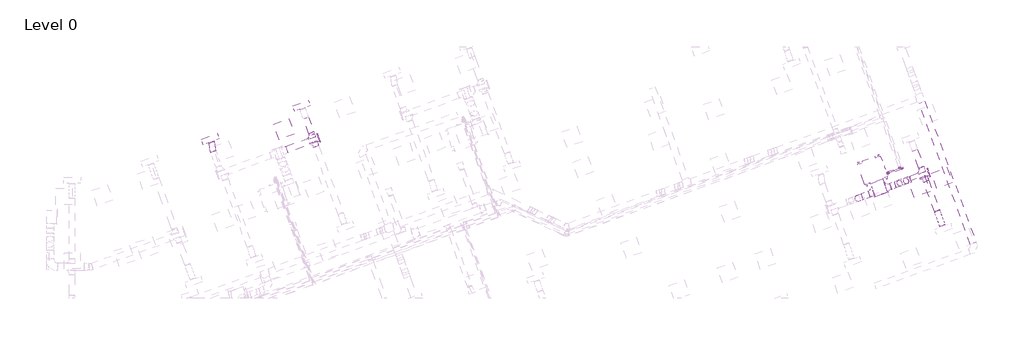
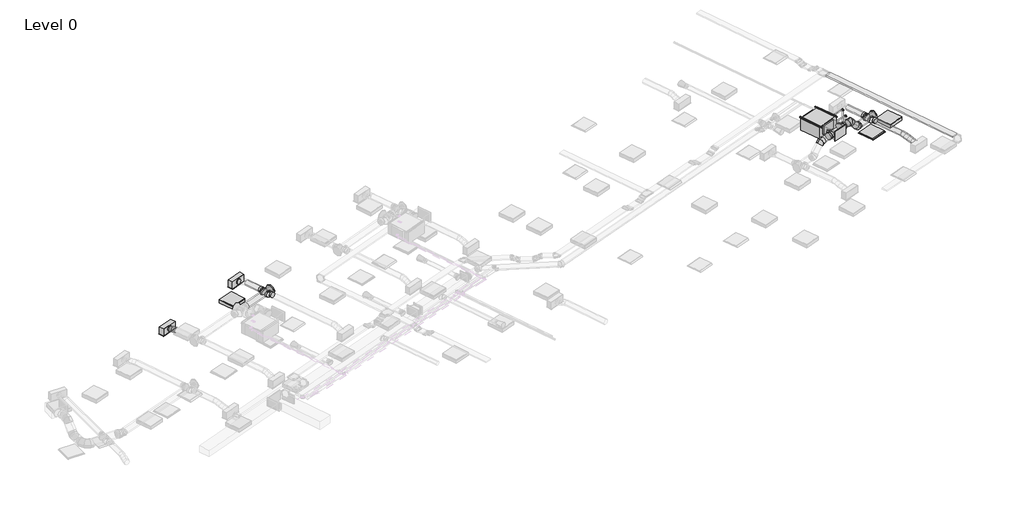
# One storey, part 29 of 34: 12 duct fittings, 11 duct segments, 6 pipe fittings, 4 pipe segments, 3 air terminals, 2 light fixtures, 1 cable carrier segment, 1 proxy.
"""IFC4 building model written with IfcOpenShell, lengths in millimetres."""

from ifc_helpers import new_model, si_unit, point, frame, frame_2d, origin, place, context, project, spatial, polyline, circle_curve, ellipse_curve, trimmed, segment, composite_curve, outline, extrude, transform, mapped, element, save
from ifc_brep_helpers import plane_surface, cylinder_surface, advanced_brep
from components import return_grille_rectangular_hosted_standard_7b12617c, supply_diffuser_with_plenum_linear_slot_hosted_2b730595, fan_coil_unit_ceiling_ducted_chw_376_lps_945e770d, dw144_rectangular_blank_end_standard_1669e3e3, dw144_round_blank_end_standard_e3d0b58b, dw144_round_segmented_bend_slip_joint_standard_636bd9c1, dw144_round_shoe_branch_slip_joint1_standard_2_15a2edd8, dw144_round_shoe_branch_slip_joint1_standard_2_4a92c8a1, dw144_round_shoe_branch_slip_joint1_standard_2_671412f0, troffer_light_2x2_parabolic_2_x2_2_lamp_120v_6a063ff3, elbow_threaded_gmi_standard_b4aa7741, socket_reducing_threaded_gmi_standard_0a4076b8

model = new_model("IFC4")

# Units and contexts
model_context = context("Model", 3, world=origin())
ifc_project = project(units=[si_unit("LENGTHUNIT", "METRE", prefix="MILLI")], contexts=[model_context])

# Site, building, storey
site = spatial("IfcSite", under=ifc_project)
building = spatial("IfcBuilding", under=site)
storey = spatial("IfcBuildingStorey", under=building, Name="Level 0", Elevation=0.0)

# Air terminals
placement = place(None, origin())
return_grille_rectangular_hosted_standard_shape = return_grille_rectangular_hosted_standard_7b12617c(model_context)
element("IfcAirTerminal", 1, ObjectType="Return Grille - Rectangular - Hosted : Standard", at=placement, inside=storey, context=model_context, shape_type="MappedRepresentation", body=[
    mapped(return_grille_rectangular_hosted_standard_shape, transform((62324.0047402, 14540.1267847, 2800.0), x_axis=(0.9396926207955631, 0.3420201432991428, 0.0), y_axis=(0.3420201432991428, -0.9396926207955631, 0.0), z_axis=(0.0, 0.0, -1.0))),
])
supply_diffuser_with_plenum_linear_slot_hosted_shape = supply_diffuser_with_plenum_linear_slot_hosted_2b730595(model_context)
element("IfcAirTerminal", 2, ObjectType="Supply Diffuser with Plenum - Linear Slot - Hosted : 24\" x 8\"-200 In Inlet  4-Slot", at=placement, inside=storey, context=model_context, shape_type="MappedRepresentation", body=[
    mapped(supply_diffuser_with_plenum_linear_slot_hosted_shape, transform((35911.9429146, 16306.0157494, 2800.0), x_axis=(-0.9396926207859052, -0.3420201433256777, 0.0), y_axis=(-0.3420201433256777, 0.9396926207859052, 0.0), z_axis=(0.0, 0.0, -1.0))),
])
element("IfcAirTerminal", 3, ObjectType="Supply Diffuser with Plenum - Linear Slot - Hosted : 24\" x 8\"-200 In Inlet  4-Slot", at=placement, inside=storey, context=model_context, shape_type="MappedRepresentation", body=[
    mapped(supply_diffuser_with_plenum_linear_slot_hosted_shape, transform((39305.8307526, 17541.2899009, 2800.0), x_axis=(-0.9396926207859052, -0.3420201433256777, 0.0), y_axis=(-0.3420201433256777, 0.9396926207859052, 0.0), z_axis=(0.0, 0.0, -1.0))),
])

# Proxy
fan_coil_unit_ceiling_ducted_chw_376_lps_shape = fan_coil_unit_ceiling_ducted_chw_376_lps_945e770d(model_context)
element("IfcBuildingElementProxy", 4, Name="Fan Coil Unit - Ceiling Ducted - CHW : 376 LPS", ObjectType="Fan Coil Unit - Ceiling Ducted - CHW : 376 LPS", at=placement, inside=storey, context=model_context, shape_type="MappedRepresentation", body=[
    mapped(fan_coil_unit_ceiling_ducted_chw_376_lps_shape, transform((60297.8420212, 14594.4554515, 3215.575), x_axis=(0.9396926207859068, 0.34202014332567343, 0.0), y_axis=(-0.34202014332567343, 0.9396926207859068, 0.0), z_axis=(0.0, 0.0, 1.0))),
])

# Cable carrier segment
element("IfcCableCarrierSegment", 5, ObjectType="Perforated Cable Tray", at=placement, inside=storey, context=model_context, shape_type="SweptSolid", body=[
    extrude(outline(polyline([(62316.5561069, 17642.8846749), (62527.9869466, 17719.8392071), (64443.8977173, 12455.9176269), (64232.4668776, 12378.9630947), (62316.5561069, 17642.8846749)])), frame((0.0, 0.0, 3223.9627355), z_axis=(0.0, 0.0, 1.0), x_axis=(1.0, 0.0, 0.0)), (0.0, 0.0, 1.0), 50.0),
])

# Duct fittings
dw144_rectangular_blank_end_standard_shape = dw144_rectangular_blank_end_standard_1669e3e3(model_context)
element("IfcDuctFitting", 6, ObjectType="DW144 Rectangular Blank End : Standard", at=placement, inside=storey, context=model_context, shape_type="MappedRepresentation", body=[
    mapped(dw144_rectangular_blank_end_standard_shape, transform((60913.8704656, 14238.6945827, 3469.575), x_axis=(0.34202014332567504, -0.9396926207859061, 0.0), y_axis=(0.9396926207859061, 0.34202014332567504, 0.0), z_axis=(0.0, 0.0, 1.0))),
])
dw144_round_blank_end_standard_shape = dw144_round_blank_end_standard_e3d0b58b(model_context)
element("IfcDuctFitting", 7, ObjectType="DW144 Round Blank End : Standard", at=placement, inside=storey, context=model_context, shape_type="MappedRepresentation", body=[
    mapped(dw144_round_blank_end_standard_shape, transform((39941.5121166, 16343.1470586, 3072.2088531), x_axis=(0.9396926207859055, 0.3420201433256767, 0.0), y_axis=(-0.3420201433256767, 0.9396926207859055, 0.0), z_axis=(0.0, 0.0, 1.0))),
])
element("IfcDuctFitting", 8, ObjectType="DW144 Round Blank End : Standard", at=placement, inside=storey, context=model_context, shape_type="MappedRepresentation", body=[
    mapped(dw144_round_blank_end_standard_shape, transform((62668.7217522, 15052.7517594, 3072.2088531), x_axis=(0.9396926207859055, 0.3420201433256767, 0.0), y_axis=(-0.3420201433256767, 0.9396926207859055, 0.0), z_axis=(0.0, 0.0, 1.0))),
])
dw144_round_segmented_bend_slip_joint_standard_shape = dw144_round_segmented_bend_slip_joint_standard_636bd9c1(model_context)
element("IfcDuctFitting", 9, ObjectType="DW144 Round Segmented Bend - Slip Joint : Standard", at=placement, inside=storey, context=model_context, shape_type="MappedRepresentation", body=[
    mapped(dw144_round_segmented_bend_slip_joint_standard_shape, transform((61898.7954922, 14772.5215182, 3072.2088531), x_axis=(0.6644630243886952, 0.24184476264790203, -0.7071067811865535), y_axis=(0.6644630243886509, 0.2418447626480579, 0.7071067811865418), z_axis=(0.3420201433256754, -0.939692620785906, 0.0))),
])
element("IfcDuctFitting", 10, ObjectType="DW144 Round Segmented Bend - Slip Joint : Standard", at=placement, inside=storey, context=model_context, shape_type="MappedRepresentation", body=[
    mapped(dw144_round_segmented_bend_slip_joint_standard_shape, transform((61525.3934562, 14636.6142917, 3469.575), x_axis=(0.9396926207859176, 0.3420201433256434, 0.0), y_axis=(0.0, 0.0, -1.0), z_axis=(-0.3420201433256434, 0.9396926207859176, 0.0))),
])
element("IfcDuctFitting", 11, ObjectType="DW144 Round Segmented Bend - Slip Joint : Standard", at=placement, inside=storey, context=model_context, shape_type="MappedRepresentation", body=[
    mapped(dw144_round_segmented_bend_slip_joint_standard_shape, transform((60097.0606726, 14116.7436739, 3469.575), x_axis=(-0.9396926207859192, -0.3420201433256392, 0.0), y_axis=(0.0, 0.0, -1.0000000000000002), z_axis=(0.3420201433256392, -0.9396926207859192, 0.0))),
])
dw144_round_shoe_branch_slip_joint1_standard_2_shape = dw144_round_shoe_branch_slip_joint1_standard_2_15a2edd8(model_context)
element("IfcDuctFitting", 12, ObjectType="DW144 Round Shoe Branch - Slip Joint1 : Standard 2", at=placement, inside=storey, context=model_context, shape_type="MappedRepresentation", body=[
    mapped(dw144_round_shoe_branch_slip_joint1_standard_2_shape, transform((39722.5145153, 16396.4606719, 3072.2088531), x_axis=(-0.3420201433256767, 0.9396926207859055, 0.0), y_axis=(0.9396926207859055, 0.3420201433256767, 0.0), z_axis=(0.0, 0.0, -1.0))),
])
element("IfcDuctFitting", 13, ObjectType="DW144 Round Shoe Branch - Slip Joint1 : Standard 2", at=placement, inside=storey, context=model_context, shape_type="MappedRepresentation", body=[
    mapped(dw144_round_shoe_branch_slip_joint1_standard_2_shape, transform((39808.0195511, 16161.5375167, 3072.2088531), x_axis=(0.3420201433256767, -0.9396926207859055, 0.0), y_axis=(0.9396926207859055, 0.3420201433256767, 0.0), z_axis=(0.0, 0.0, 1.0))),
])
element("IfcDuctFitting", 14, ObjectType="DW144 Round Shoe Branch - Slip Joint1 : Standard 2", at=placement, inside=storey, context=model_context, shape_type="MappedRepresentation", body=[
    mapped(dw144_round_shoe_branch_slip_joint1_standard_2_shape, transform((62449.7241509, 15106.0653727, 3072.2088531), x_axis=(-0.3420201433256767, 0.9396926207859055, 0.0), y_axis=(0.9396926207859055, 0.3420201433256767, 0.0), z_axis=(0.0, 0.0, -1.0))),
])
element("IfcDuctFitting", 15, ObjectType="DW144 Round Shoe Branch - Slip Joint1 : Standard 2", at=placement, inside=storey, context=model_context, shape_type="MappedRepresentation", body=[
    mapped(dw144_round_shoe_branch_slip_joint1_standard_2_shape, transform((62535.2291867, 14871.1422175, 3072.2088531), x_axis=(0.3420201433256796, -0.9396926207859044, 0.0), y_axis=(0.9396926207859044, 0.3420201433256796, 0.0), z_axis=(0.0, 0.0, 1.0))),
])
dw144_round_shoe_branch_slip_joint1_standard_2_2_shape = dw144_round_shoe_branch_slip_joint1_standard_2_4a92c8a1(model_context)
element("IfcDuctFitting", 16, ObjectType="DW144 Round Shoe Branch - Slip Joint1 : Standard 2", at=placement, inside=storey, context=model_context, shape_type="MappedRepresentation", body=[
    mapped(dw144_round_shoe_branch_slip_joint1_standard_2_2_shape, transform((61092.4392924, 14479.0318633, 3469.575), x_axis=(0.9396926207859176, 0.3420201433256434, 0.0), y_axis=(0.3420201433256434, -0.9396926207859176, 0.0), z_axis=(0.0, 0.0, -1.0))),
])
dw144_round_shoe_branch_slip_joint1_standard_2_3_shape = dw144_round_shoe_branch_slip_joint1_standard_2_671412f0(model_context)
element("IfcDuctFitting", 17, ObjectType="DW144 Round Shoe Branch - Slip Joint1 : Standard 2", at=placement, inside=storey, context=model_context, shape_type="MappedRepresentation", body=[
    mapped(dw144_round_shoe_branch_slip_joint1_standard_2_3_shape, transform((60622.592982, 14308.0217916, 3469.575), x_axis=(-0.9396926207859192, -0.3420201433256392, 0.0), y_axis=(-0.3420201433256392, 0.9396926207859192, 0.0), z_axis=(0.0, 0.0, -1.0))),
])

# Duct segments
element("IfcDuctSegment", 18, ObjectType="DW144 Flanged Med Radius Bend / Shoe Branch", at=placement, inside=storey, context=model_context, shape_type="SweptSolid", body=[
    extrude(outline(polyline([(60501.2336439, 14641.4538326), (60971.0799543, 14812.4639042), (61148.7936208, 14324.1996185), (60678.9473104, 14153.1895468), (60501.2336439, 14641.4538326)])), frame((0.0, 0.0, 3294.575), z_axis=(0.0, 0.0, 1.0), x_axis=(1.0, 0.0, 0.0)), (0.0, 0.0, 1.0), 350.0),
])
element("IfcDuctSegment", 19, ObjectType="DW144 Segmented Bend / Shoe Branch", at=placement, inside=storey, context=model_context, shape_type="SweptSolid", body=[
    extrude(outline(composite_curve([segment(trimmed(circle_curve(frame_2d((0.0, 125.0)), 125.0), [point((125.0, 125.0))], [point((0.0, 0.0))], False, "CARTESIAN"), True, "CONTINUOUS"), segment(trimmed(circle_curve(frame_2d((0.0, 125.0)), 125.0), [point((0.0, 0.0))], [point((-125.0, 125.0))], False, "CARTESIAN"), True, "CONTINUOUS"), segment(trimmed(circle_curve(frame_2d((0.0, 125.0)), 125.0), [point((-125.0, 125.0))], [point((0.0, 250.0))], False, "CARTESIAN"), True, "CONTINUOUS"), segment(trimmed(circle_curve(frame_2d((0.0, 125.0)), 125.0), [point((0.0, 250.0))], [point((125.0, 125.0))], False, "CARTESIAN"), True, "CONTINUOUS")], self_intersect=False)), frame((38766.9179686, 15915.6297514, 3197.2088531), z_axis=(0.9396926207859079, 0.3420201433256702, 0.0), x_axis=(0.3420201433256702, -0.9396926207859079, 0.0)), (0.0, 0.0, 1.0), 1249.976984),
])
element("IfcDuctSegment", 20, ObjectType="DW144 Segmented Bend / Shoe Branch", at=placement, inside=storey, context=model_context, shape_type="SweptSolid", body=[
    extrude(outline(composite_curve([segment(trimmed(circle_curve(frame_2d((0.0, 100.0)), 100.0), [point((100.0, 100.0))], [point((0.0, 0.0))], False, "CARTESIAN"), True, "CONTINUOUS"), segment(trimmed(circle_curve(frame_2d((0.0, 100.0)), 100.0), [point((0.0, 0.0))], [point((-100.0, 100.0))], False, "CARTESIAN"), True, "CONTINUOUS"), segment(trimmed(circle_curve(frame_2d((0.0, 100.0)), 100.0), [point((-100.0, 100.0))], [point((0.0, 200.0))], False, "CARTESIAN"), True, "CONTINUOUS"), segment(trimmed(circle_curve(frame_2d((0.0, 100.0)), 100.0), [point((0.0, 200.0))], [point((100.0, 100.0))], False, "CARTESIAN"), True, "CONTINUOUS")], self_intersect=False)), frame((39671.2114938, 16537.414565, 3172.2088531), z_axis=(-0.3420201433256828, 0.9396926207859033, 0.0), x_axis=(0.9396926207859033, 0.3420201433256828, 0.0)), (0.0, 0.0, 1.0), 590.0),
])
element("IfcDuctSegment", 21, ObjectType="DW144 Segmented Bend / Shoe Branch", at=placement, inside=storey, context=model_context, shape_type="SweptSolid", body=[
    extrude(outline(composite_curve([segment(trimmed(circle_curve(frame_2d((0.0, -125.0)), 125.0), [point((-125.0, -125.0))], [point((0.0, 0.0))], False, "CARTESIAN"), True, "CONTINUOUS"), segment(trimmed(circle_curve(frame_2d((0.0, -125.0)), 125.0), [point((0.0, 0.0))], [point((125.0, -125.0))], False, "CARTESIAN"), True, "CONTINUOUS"), segment(trimmed(circle_curve(frame_2d((0.0, -125.0)), 125.0), [point((125.0, -125.0))], [point((0.0, -250.0))], False, "CARTESIAN"), True, "CONTINUOUS"), segment(trimmed(circle_curve(frame_2d((0.0, -125.0)), 125.0), [point((0.0, -250.0))], [point((-125.0, -125.0))], False, "CARTESIAN"), True, "CONTINUOUS")], self_intersect=False)), frame((61996.1038492, 14807.9388637, 2947.2088531), z_axis=(0.9396926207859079, 0.3420201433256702, 0.0), x_axis=(0.3420201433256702, -0.9396926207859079, 0.0)), (0.0, 0.0, 1.0), 715.7850217),
])
element("IfcDuctSegment", 22, ObjectType="DW144 Segmented Bend / Shoe Branch", at=placement, inside=storey, context=model_context, shape_type="SweptSolid", body=[
    extrude(outline(composite_curve([segment(trimmed(circle_curve(frame_2d((0.0, 100.0)), 100.0), [point((99.9999999, 100.0))], [point((0.0, 0.0))], False, "CARTESIAN"), True, "CONTINUOUS"), segment(trimmed(circle_curve(frame_2d((0.0, 100.0)), 100.0), [point((0.0, 0.0))], [point((-100.0, 100.0))], False, "CARTESIAN"), True, "CONTINUOUS"), segment(trimmed(circle_curve(frame_2d((0.0, 100.0)), 100.0), [point((-100.0, 100.0))], [point((0.0, 200.0))], False, "CARTESIAN"), True, "CONTINUOUS"), segment(trimmed(circle_curve(frame_2d((0.0, 100.0)), 100.0), [point((0.0, 200.0))], [point((99.9999999, 100.0))], False, "CARTESIAN"), True, "CONTINUOUS")], self_intersect=False)), frame((62398.4211294, 15247.0192659, 3172.2088531), z_axis=(-0.3420201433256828, 0.9396926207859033, 0.0), x_axis=(0.9396926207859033, 0.3420201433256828, 0.0)), (0.0, 0.0, 1.0), 682.8884371),
])
element("IfcDuctSegment", 23, ObjectType="DW144 Segmented Bend / Shoe Branch", at=placement, inside=storey, context=model_context, shape_type="SweptSolid", body=[
    extrude(outline(composite_curve([segment(trimmed(circle_curve(frame_2d((0.0, -100.0)), 100.0), [point((-100.0, -100.0))], [point((0.0, 0.0))], False, "CARTESIAN"), True, "CONTINUOUS"), segment(trimmed(circle_curve(frame_2d((0.0, -100.0)), 100.0), [point((0.0, 0.0))], [point((100.0, -100.0))], False, "CARTESIAN"), True, "CONTINUOUS"), segment(trimmed(circle_curve(frame_2d((0.0, -100.0)), 100.0), [point((100.0, -100.0))], [point((0.0, -200.0))], False, "CARTESIAN"), True, "CONTINUOUS"), segment(trimmed(circle_curve(frame_2d((0.0, -100.0)), 100.0), [point((0.0, -200.0))], [point((-100.0, -100.0))], False, "CARTESIAN"), True, "CONTINUOUS")], self_intersect=False)), frame((62987.2757878, 13629.1543884, 2972.2088531), z_axis=(-0.34202014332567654, 0.9396926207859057, 0.0), x_axis=(0.9396926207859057, 0.34202014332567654, 0.0)), (0.0, 0.0, 1.0), 1171.6958415),
])
element("IfcDuctSegment", 24, ObjectType="DW144 Segmented Bend / Shoe Branch", at=placement, inside=storey, context=model_context, shape_type="SweptSolid", body=[
    extrude(outline(composite_curve([segment(trimmed(circle_curve(frame_2d((0.0, 125.0)), 125.0), [point((124.9999999, 125.0))], [point((0.0, 0.0))], False, "CARTESIAN"), True, "CONTINUOUS"), segment(trimmed(circle_curve(frame_2d((0.0, 125.0)), 125.0), [point((0.0, 0.0))], [point((-125.0, 125.0))], False, "CARTESIAN"), True, "CONTINUOUS"), segment(trimmed(circle_curve(frame_2d((0.0, 125.0)), 125.0), [point((-125.0, 125.0))], [point((0.0, 250.0))], False, "CARTESIAN"), True, "CONTINUOUS"), segment(trimmed(circle_curve(frame_2d((0.0, 125.0)), 125.0), [point((0.0, 250.0))], [point((124.9999999, 125.0))], False, "CARTESIAN"), True, "CONTINUOUS")], self_intersect=False)), frame((61256.885501, 14538.8853883, 3594.575), z_axis=(0.9396926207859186, 0.3420201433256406, 0.0), x_axis=(0.3420201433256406, -0.9396926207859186, 0.0)), (0.0, 0.0, 1.0), 182.1868071),
])
element("IfcDuctSegment", 25, ObjectType="DW144 Segmented Bend / Shoe Branch", at=placement, inside=storey, context=model_context, shape_type="SweptSolid", body=[
    extrude(outline(composite_curve([segment(trimmed(circle_curve(frame_2d((0.0, -125.0)), 125.0), [point((-125.0, -125.0))], [point((0.0, 0.0))], False, "CARTESIAN"), True, "CONTINUOUS"), segment(trimmed(circle_curve(frame_2d((0.0, -125.0)), 125.0), [point((0.0, 0.0))], [point((125.0, -125.0))], False, "CARTESIAN"), True, "CONTINUOUS"), segment(trimmed(circle_curve(frame_2d((0.0, -125.0)), 125.0), [point((125.0, -125.0))], [point((0.0, -250.0))], False, "CARTESIAN"), True, "CONTINUOUS"), segment(trimmed(circle_curve(frame_2d((0.0, -125.0)), 125.0), [point((0.0, -250.0))], [point((-125.0, -125.0))], False, "CARTESIAN"), True, "CONTINUOUS")], self_intersect=False)), frame((60194.3690296, 14152.1610194, 3344.575), z_axis=(0.9396926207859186, 0.3420201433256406, 0.0), x_axis=(0.3420201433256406, -0.9396926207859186, 0.0)), (0.0, 0.0, 1.0), 280.7064117),
])
element("IfcDuctSegment", 26, ObjectType="DW144 Segmented Bend / Shoe Branch", at=placement, inside=storey, context=model_context, shape_type="SweptSolid", body=[
    extrude(outline(composite_curve([segment(trimmed(circle_curve(frame_2d((0.0, -125.0)), 125.0), [point((57.2076922, -236.1408113))], [point((-111.1408114, -182.2076923))], False, "CARTESIAN"), True, "CONTINUOUS"), segment(trimmed(circle_curve(frame_2d((0.0, -125.0)), 125.0), [point((-111.1408114, -182.2076923))], [point((-57.2076923, -13.8591886))], False, "CARTESIAN"), True, "CONTINUOUS"), segment(trimmed(circle_curve(frame_2d((0.0, -125.0)), 125.0), [point((-57.2076923, -13.8591886))], [point((111.1408113, -67.7923077))], False, "CARTESIAN"), True, "CONTINUOUS"), segment(trimmed(circle_curve(frame_2d((0.0, -125.0)), 125.0), [point((111.1408113, -67.7923077))], [point((57.2076922, -236.1408113))], False, "CARTESIAN"), True, "CONTINUOUS")], self_intersect=False)), frame((61829.9880931, 14865.7512541, 3185.884105), z_axis=(-0.6644630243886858, -0.24184476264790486, 0.7071067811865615), x_axis=(0.7473211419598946, -0.2150305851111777, 0.6287073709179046)), (0.0, 0.0, 1.0), 354.8538129),
])
element("IfcDuctSegment", 27, ObjectType="Flex - Round", at=placement, inside=storey, context=model_context, shape_type="AdvancedBrep", body=[
    advanced_brep(
    [(35924.0047582, 15801.4077374, 3072.2088531), (36017.9740203, 15835.6097517, 2972.2088531), (36111.9432824, 15869.8117661, 3072.2088531), (36017.9740203, 15835.6097517, 3172.2088531), (35916.4172516, 15822.2542405, 3072.2088531), (36015.9886489, 15841.0645149, 2972.2088531), (36108.1884482, 15880.1280881, 3072.2088531), (36008.6170509, 15861.3178137, 3172.2088531), (35861.4102107, 16152.4727722, 2954.4), (35955.3794728, 16186.6747866, 3054.4), (36049.3487348, 16220.8768009, 2954.4), (35955.3794728, 16186.6747866, 2854.4), (35900.8957285, 15886.8504624, 3057.7687719), (36007.3423371, 15877.0480371, 2964.1649619), (36097.3705663, 15925.1490761, 3062.1446929), (35990.9239576, 15934.9515013, 3155.7485029), (35890.7383141, 15962.9659914, 3026.0560812), (35999.5221076, 15935.6496537, 2939.7492485), (36088.8121251, 15989.2825504, 3035.4241924), (35980.0283315, 16016.5988881, 3121.7310251), (35884.541368, 16033.0019879, 2991.1846607), (35993.3251615, 16005.6856502, 2904.877828), (36082.615179, 16059.3185469, 3000.5527719), (35973.8313854, 16086.6348846, 3086.8596046), (35875.9829268, 16097.1354622, 2964.4641602), (35982.4295354, 16087.333037, 2870.8603502), (36072.4577645, 16135.4340759, 2968.8400813), (35966.0111559, 16145.2365012, 3062.4438913), (35865.1650448, 16142.1564502, 2954.4), (35964.7364421, 16160.9667246, 2854.4), (36056.9362415, 16200.0302978, 2954.4), (35957.3648442, 16181.2200234, 3054.4)],
    [
        (0, 1, circle_curve(frame((36017.9740203, 15835.6097517, 3072.2088531), z_axis=(0.34202014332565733, -0.9396926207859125, 0.0), x_axis=(-0.9396926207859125, -0.34202014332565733, 0.0)), 100.0)),
        (1, 2, circle_curve(frame((36017.9740203, 15835.6097517, 3072.2088531), z_axis=(0.34202014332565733, -0.9396926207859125, 0.0), x_axis=(-0.9396926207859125, -0.34202014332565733, 0.0)), 100.0)),
        (2, 3, circle_curve(frame((36017.9740203, 15835.6097517, 3072.2088531), z_axis=(0.34202014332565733, -0.9396926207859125, 0.0), x_axis=(-0.9396926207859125, -0.34202014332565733, 0.0)), 100.0)),
        (3, 0, circle_curve(frame((36017.9740203, 15835.6097517, 3072.2088531), z_axis=(0.34202014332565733, -0.9396926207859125, 0.0), x_axis=(-0.9396926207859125, -0.34202014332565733, 0.0)), 100.0)),
        (0, 4),
        (4, 5, ellipse_curve(frame((36012.3028499, 15851.1911643, 3072.2088531), z_axis=(0.28725807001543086, -0.9518604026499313, 0.10697932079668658), x_axis=(0.47155649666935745, 0.04331948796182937, -0.8807711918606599)), 100.7349377, 100.0)),
        (5, 1),
        (5, 6, ellipse_curve(frame((36012.3028499, 15851.1911643, 3072.2088531), z_axis=(0.28725807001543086, -0.9518604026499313, 0.10697932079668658), x_axis=(0.47155649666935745, 0.04331948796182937, -0.8807711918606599)), 100.7349377, 100.0)),
        (6, 2),
        (6, 7, ellipse_curve(frame((36012.3028499, 15851.1911643, 3072.2088531), z_axis=(0.28725807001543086, -0.9518604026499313, 0.10697932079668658), x_axis=(0.47155649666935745, 0.04331948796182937, -0.8807711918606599)), 100.7349377, 100.0)),
        (7, 3),
        (7, 4, ellipse_curve(frame((36012.3028499, 15851.1911643, 3072.2088531), z_axis=(0.28725807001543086, -0.9518604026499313, 0.10697932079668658), x_axis=(0.47155649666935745, 0.04331948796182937, -0.8807711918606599)), 100.7349377, 100.0)),
        (8, 9, circle_curve(frame((35955.3794728, 16186.6747866, 2954.4), z_axis=(-0.3420201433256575, 0.9396926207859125, 0.0), x_axis=(-0.9396926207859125, -0.3420201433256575, 0.0)), 100.0)),
        (9, 10, circle_curve(frame((35955.3794728, 16186.6747866, 2954.4), z_axis=(-0.3420201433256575, 0.9396926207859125, 0.0), x_axis=(-0.9396926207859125, -0.3420201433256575, 0.0)), 100.0)),
        (10, 11, circle_curve(frame((35955.3794728, 16186.6747866, 2954.4), z_axis=(-0.3420201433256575, 0.9396926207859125, 0.0), x_axis=(-0.9396926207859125, -0.3420201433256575, 0.0)), 100.0)),
        (11, 8, circle_curve(frame((35955.3794728, 16186.6747866, 2954.4), z_axis=(-0.3420201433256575, 0.9396926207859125, 0.0), x_axis=(-0.9396926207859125, -0.3420201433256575, 0.0)), 100.0)),
        (4, 12),
        (12, 13, ellipse_curve(frame((35999.1331474, 15905.9997692, 3059.9567324), z_axis=(0.17618862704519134, -0.9379774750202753, 0.29858972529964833), x_axis=(0.5232975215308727, -0.16766949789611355, -0.8354918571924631)), 100.5173143, 100.0)),
        (13, 5),
        (13, 14, ellipse_curve(frame((35999.1331474, 15905.9997692, 3059.9567324), z_axis=(0.17618862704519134, -0.9379774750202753, 0.29858972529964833), x_axis=(0.5232975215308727, -0.16766949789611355, -0.8354918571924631)), 100.5173143, 100.0)),
        (14, 6),
        (14, 15, ellipse_curve(frame((35999.1331474, 15905.9997692, 3059.9567324), z_axis=(0.17618862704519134, -0.9379774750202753, 0.29858972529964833), x_axis=(0.5232975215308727, -0.16766949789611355, -0.8354918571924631)), 100.5173143, 100.0)),
        (15, 7),
        (15, 12, ellipse_curve(frame((35999.1331474, 15905.9997692, 3059.9567324), z_axis=(0.17618862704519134, -0.9379774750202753, 0.29858972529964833), x_axis=(0.5232975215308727, -0.16766949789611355, -0.8354918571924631)), 100.5173143, 100.0)),
        (12, 16),
        (16, 17, ellipse_curve(frame((35989.7752196, 15976.1242709, 3030.7401368), z_axis=(0.10068966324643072, -0.9049906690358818, 0.4133442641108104), x_axis=(0.5429036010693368, -0.2981722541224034, -0.7850789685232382)), 100.0796062, 100.0)),
        (17, 13),
        (17, 18, ellipse_curve(frame((35989.7752196, 15976.1242709, 3030.7401368), z_axis=(0.10068966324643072, -0.9049906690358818, 0.4133442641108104), x_axis=(0.5429036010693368, -0.2981722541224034, -0.7850789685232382)), 100.0796062, 100.0)),
        (18, 14),
        (18, 19, ellipse_curve(frame((35989.7752196, 15976.1242709, 3030.7401368), z_axis=(0.10068966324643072, -0.9049906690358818, 0.4133442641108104), x_axis=(0.5429036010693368, -0.2981722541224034, -0.7850789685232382)), 100.0796062, 100.0)),
        (19, 15),
        (19, 16, ellipse_curve(frame((35989.7752196, 15976.1242709, 3030.7401368), z_axis=(0.10068966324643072, -0.9049906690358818, 0.4133442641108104), x_axis=(0.5429036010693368, -0.2981722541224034, -0.7850789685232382)), 100.0796062, 100.0)),
        (16, 20),
        (20, 21, ellipse_curve(frame((35983.5782735, 16046.1602674, 2995.8687163), z_axis=(0.10068966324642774, -0.9049906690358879, 0.4133442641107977), x_axis=(-0.5429036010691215, 0.2981722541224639, 0.7850789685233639)), 100.0796062, 100.0)),
        (21, 17),
        (21, 22, ellipse_curve(frame((35983.5782735, 16046.1602674, 2995.8687163), z_axis=(0.10068966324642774, -0.9049906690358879, 0.4133442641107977), x_axis=(-0.5429036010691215, 0.2981722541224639, 0.7850789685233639)), 100.0796062, 100.0)),
        (22, 18),
        (22, 23, ellipse_curve(frame((35983.5782735, 16046.1602674, 2995.8687163), z_axis=(0.10068966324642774, -0.9049906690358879, 0.4133442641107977), x_axis=(-0.5429036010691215, 0.2981722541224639, 0.7850789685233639)), 100.0796062, 100.0)),
        (23, 19),
        (23, 20, ellipse_curve(frame((35983.5782735, 16046.1602674, 2995.8687163), z_axis=(0.10068966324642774, -0.9049906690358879, 0.4133442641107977), x_axis=(-0.5429036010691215, 0.2981722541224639, 0.7850789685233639)), 100.0796062, 100.0)),
        (20, 24),
        (24, 25, ellipse_curve(frame((35974.2203457, 16116.2847691, 2966.6521207), z_axis=(0.17618862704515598, -0.9379774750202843, 0.29858972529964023), x_axis=(-0.5232975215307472, 0.16766949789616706, 0.8354918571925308)), 100.5173143, 100.0)),
        (25, 21),
        (25, 26, ellipse_curve(frame((35974.2203457, 16116.2847691, 2966.6521207), z_axis=(0.17618862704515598, -0.9379774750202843, 0.29858972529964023), x_axis=(-0.5232975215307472, 0.16766949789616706, 0.8354918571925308)), 100.5173143, 100.0)),
        (26, 22),
        (26, 27, ellipse_curve(frame((35974.2203457, 16116.2847691, 2966.6521207), z_axis=(0.17618862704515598, -0.9379774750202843, 0.29858972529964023), x_axis=(-0.5232975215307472, 0.16766949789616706, 0.8354918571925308)), 100.5173143, 100.0)),
        (27, 23),
        (27, 24, ellipse_curve(frame((35974.2203457, 16116.2847691, 2966.6521207), z_axis=(0.17618862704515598, -0.9379774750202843, 0.29858972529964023), x_axis=(-0.5232975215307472, 0.16766949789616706, 0.8354918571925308)), 100.5173143, 100.0)),
        (24, 28),
        (28, 29, ellipse_curve(frame((35961.0506431, 16171.093374, 2954.4), z_axis=(0.28725807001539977, -0.95186040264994, 0.10697932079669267), x_axis=(-0.4715564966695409, -0.043319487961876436, 0.8807711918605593)), 100.7349377, 100.0)),
        (29, 25),
        (29, 30, ellipse_curve(frame((35961.0506431, 16171.093374, 2954.4), z_axis=(0.28725807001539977, -0.95186040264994, 0.10697932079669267), x_axis=(-0.4715564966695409, -0.043319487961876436, 0.8807711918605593)), 100.7349377, 100.0)),
        (30, 26),
        (30, 31, ellipse_curve(frame((35961.0506431, 16171.093374, 2954.4), z_axis=(0.28725807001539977, -0.95186040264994, 0.10697932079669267), x_axis=(-0.4715564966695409, -0.043319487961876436, 0.8807711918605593)), 100.7349377, 100.0)),
        (31, 27),
        (31, 28, ellipse_curve(frame((35961.0506431, 16171.093374, 2954.4), z_axis=(0.28725807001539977, -0.95186040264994, 0.10697932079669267), x_axis=(-0.4715564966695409, -0.043319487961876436, 0.8807711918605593)), 100.7349377, 100.0)),
        (28, 8),
        (11, 29),
        (10, 30),
        (9, 31),
    ],
    [
        plane_surface(frame((36017.9740203, 15835.6097517, 3172.2088531), z_axis=(0.3420201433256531, -0.9396926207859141, 0.0), x_axis=(0.9396926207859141, 0.3420201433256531, 0.0))),
        cylinder_surface(frame((36017.9740203, 15835.6097517, 3072.2088531), z_axis=(0.34202014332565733, -0.9396926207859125, 0.0), x_axis=(-0.9396926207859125, -0.34202014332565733, 0.0)), 100.0),
        plane_surface(frame((35955.3794728, 16186.6747866, 3054.4), z_axis=(-0.3420201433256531, 0.9396926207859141, 0.0), x_axis=(0.9396926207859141, 0.3420201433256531, 0.0))),
        cylinder_surface(frame((36012.3028499, 15851.1911643, 3072.2088531), z_axis=(0.22830446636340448, -0.9501390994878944, 0.21239765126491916), x_axis=(-0.9716478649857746, -0.2361330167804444, -0.011900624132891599)), 100.0),
        cylinder_surface(frame((35999.1331474, 15905.9997692, 3059.9567324), z_axis=(0.12225927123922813, -0.9161612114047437, 0.3817084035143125), x_axis=(-0.9881182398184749, -0.14844948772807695, -0.039813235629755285)), 100.0),
        cylinder_surface(frame((35989.7752196, 15976.1242709, 3030.7401368), z_axis=(0.07895987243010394, -0.8923804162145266, 0.44432255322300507), x_axis=(-0.9918227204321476, -0.11515391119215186, -0.05502061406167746)), 100.0),
        cylinder_surface(frame((35983.5782735, 16046.1602674, 2995.8687163), z_axis=(0.1222592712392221, -0.9161612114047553, 0.3817084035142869), x_axis=(-0.9881182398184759, -0.1484494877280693, -0.039813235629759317)), 100.0),
        cylinder_surface(frame((35974.2203457, 16116.2847691, 2966.6521207), z_axis=(0.22830446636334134, -0.9501390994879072, 0.21239765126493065), x_axis=(-0.9716478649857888, -0.23613301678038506, -0.011900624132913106)), 100.0),
        cylinder_surface(frame((35961.0506431, 16171.093374, 2954.4), z_axis=(0.3420201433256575, -0.9396926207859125, 0.0), x_axis=(-0.9396926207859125, -0.3420201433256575, 0.0)), 100.0),
    ],
    [
        (0, [[1, 2, 3, 4]]),
        (1, [[-1, 5, 6, 7]]),
        (1, [[-2, -7, 8, 9]]),
        (1, [[-3, -9, 10, 11]]),
        (1, [[-4, -11, 12, -5]]),
        (2, [[13, 14, 15, 16]]),
        (3, [[-6, 17, 18, 19]]),
        (3, [[-8, -19, 20, 21]]),
        (3, [[-10, -21, 22, 23]]),
        (3, [[-12, -23, 24, -17]]),
        (4, [[-18, 25, 26, 27]]),
        (4, [[-20, -27, 28, 29]]),
        (4, [[-22, -29, 30, 31]]),
        (4, [[-24, -31, 32, -25]]),
        (5, [[-26, 33, 34, 35]]),
        (5, [[-28, -35, 36, 37]]),
        (5, [[-30, -37, 38, 39]]),
        (5, [[-32, -39, 40, -33]]),
        (6, [[-34, 41, 42, 43]]),
        (6, [[-36, -43, 44, 45]]),
        (6, [[-38, -45, 46, 47]]),
        (6, [[-40, -47, 48, -41]]),
        (7, [[-42, 49, 50, 51]]),
        (7, [[-44, -51, 52, 53]]),
        (7, [[-46, -53, 54, 55]]),
        (7, [[-48, -55, 56, -49]]),
        (8, [[-50, 57, -16, 58]]),
        (8, [[-52, -58, -15, 59]]),
        (8, [[-54, -59, -14, 60]]),
        (8, [[-56, -60, -13, -57]]),
    ],
),
])
element("IfcDuctSegment", 28, ObjectType="Flex - Round", at=placement, inside=storey, context=model_context, shape_type="AdvancedBrep", body=[
    advanced_brep(
    [(63081.2450499, 13663.3564027, 3072.2088531), (62987.2757878, 13629.1543884, 2972.2088531), (62893.3065257, 13594.952374, 3072.2088531), (62987.2757878, 13629.1543884, 3172.2088531), (63085.4490823, 13651.8059187, 3072.2088531), (62989.1811997, 13623.9193121, 2972.2088531), (62897.5105581, 13583.4018901, 3072.2088531), (62993.7784406, 13611.2884967, 3172.2088531), (63283.0758915, 13108.830723, 2954.4), (63189.1066294, 13074.6287087, 3054.4), (63095.1373674, 13040.4266943, 2954.4), (63189.1066294, 13074.6287087, 2854.4), (63132.0761386, 13523.6991344, 3053.8012198), (63031.2288686, 13508.3942915, 2955.6090905), (62944.1376144, 13455.2951057, 3053.8012198), (63044.9848844, 13470.5999486, 3151.9933492), (63182.1604707, 13386.0935629, 3013.3044266), (63079.0748923, 13376.9384216, 2916.9221309), (62994.2219466, 13317.6895342, 3013.3044266), (63097.3075249, 13326.8446754, 3109.6867223), (63232.2448028, 13248.4879913, 2972.8076333), (63131.3975328, 13233.1831484, 2874.6155039), (63044.3062787, 13180.0839626, 2972.8076333), (63145.1535487, 13195.3888055, 3070.9997627), (63278.8718591, 13120.381207, 2954.4), (63182.6039766, 13092.4946004, 2854.4), (63090.933335, 13051.9771783, 2954.4), (63187.2012175, 13079.8637849, 3054.4)],
    [
        (0, 1, circle_curve(frame((62987.2757878, 13629.1543884, 3072.2088531), z_axis=(-0.3420201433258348, 0.939692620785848, 0.0), x_axis=(0.939692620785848, 0.3420201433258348, 0.0)), 100.0)),
        (1, 2, circle_curve(frame((62987.2757878, 13629.1543884, 3072.2088531), z_axis=(-0.3420201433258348, 0.939692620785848, 0.0), x_axis=(0.939692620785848, 0.3420201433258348, 0.0)), 100.0)),
        (2, 3, circle_curve(frame((62987.2757878, 13629.1543884, 3072.2088531), z_axis=(-0.3420201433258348, 0.939692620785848, 0.0), x_axis=(0.939692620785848, 0.3420201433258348, 0.0)), 100.0)),
        (3, 0, circle_curve(frame((62987.2757878, 13629.1543884, 3072.2088531), z_axis=(-0.3420201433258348, 0.939692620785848, 0.0), x_axis=(0.939692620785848, 0.3420201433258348, 0.0)), 100.0)),
        (0, 4),
        (4, 5, ellipse_curve(frame((62991.4798202, 13617.6039044, 3072.2088531), z_axis=(-0.34125033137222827, 0.9375775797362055, 0.06705589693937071), x_axis=(-0.022934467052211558, 0.06301193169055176, -0.9977492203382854)), 100.2255857, 100.0)),
        (5, 1),
        (5, 6, ellipse_curve(frame((62991.4798202, 13617.6039044, 3072.2088531), z_axis=(-0.34125033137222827, 0.9375775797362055, 0.06705589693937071), x_axis=(-0.022934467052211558, 0.06301193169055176, -0.9977492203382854)), 100.2255857, 100.0)),
        (6, 2),
        (6, 7, ellipse_curve(frame((62991.4798202, 13617.6039044, 3072.2088531), z_axis=(-0.34125033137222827, 0.9375775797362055, 0.06705589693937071), x_axis=(-0.022934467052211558, 0.06301193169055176, -0.9977492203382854)), 100.2255857, 100.0)),
        (7, 3),
        (7, 4, ellipse_curve(frame((62991.4798202, 13617.6039044, 3072.2088531), z_axis=(-0.34125033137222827, 0.9375775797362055, 0.06705589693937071), x_axis=(-0.022934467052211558, 0.06301193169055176, -0.9977492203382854)), 100.2255857, 100.0)),
        (8, 9, circle_curve(frame((63189.1066294, 13074.6287087, 2954.4), z_axis=(0.342020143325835, -0.939692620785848, 0.0), x_axis=(0.9396926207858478, 0.34202014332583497, 0.0)), 100.0)),
        (9, 10, circle_curve(frame((63189.1066294, 13074.6287087, 2954.4), z_axis=(0.342020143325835, -0.939692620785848, 0.0), x_axis=(0.9396926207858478, 0.34202014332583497, 0.0)), 100.0)),
        (10, 11, circle_curve(frame((63189.1066294, 13074.6287087, 2954.4), z_axis=(0.342020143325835, -0.939692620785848, 0.0), x_axis=(0.9396926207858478, 0.34202014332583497, 0.0)), 100.0)),
        (11, 8, circle_curve(frame((63189.1066294, 13074.6287087, 2954.4), z_axis=(0.342020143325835, -0.939692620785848, 0.0), x_axis=(0.9396926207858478, 0.34202014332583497, 0.0)), 100.0)),
        (4, 12),
        (12, 13, ellipse_curve(frame((63038.1068765, 13489.4971201, 3053.8012198), z_axis=(-0.3350653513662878, 0.9205844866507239, 0.20063751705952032), x_axis=(-0.06862207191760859, 0.18853759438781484, -0.979665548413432)), 100.2302567, 100.0)),
        (13, 5),
        (13, 14, ellipse_curve(frame((63038.1068765, 13489.4971201, 3053.8012198), z_axis=(-0.3350653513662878, 0.9205844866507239, 0.20063751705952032), x_axis=(-0.06862207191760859, 0.18853759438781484, -0.979665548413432)), 100.2302567, 100.0)),
        (14, 6),
        (14, 15, ellipse_curve(frame((63038.1068765, 13489.4971201, 3053.8012198), z_axis=(-0.3350653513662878, 0.9205844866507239, 0.20063751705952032), x_axis=(-0.06862207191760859, 0.18853759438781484, -0.979665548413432)), 100.2302567, 100.0)),
        (15, 7),
        (15, 12, ellipse_curve(frame((63038.1068765, 13489.4971201, 3053.8012198), z_axis=(-0.3350653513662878, 0.9205844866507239, 0.20063751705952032), x_axis=(-0.06862207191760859, 0.18853759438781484, -0.979665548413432)), 100.2302567, 100.0)),
        (12, 16),
        (16, 17, circle_curve(frame((63088.1912086, 13351.8915485, 3013.3044266), z_axis=(-0.3296468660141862, 0.9056973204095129, 0.26654325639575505), x_axis=(0.9396926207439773, 0.34202014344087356, 1.663133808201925e-11)), 100.0)),
        (17, 13),
        (17, 18, circle_curve(frame((63088.1912086, 13351.8915485, 3013.3044266), z_axis=(-0.3296468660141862, 0.9056973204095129, 0.26654325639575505), x_axis=(0.9396926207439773, 0.34202014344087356, 1.663133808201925e-11)), 100.0)),
        (18, 14),
        (18, 19, circle_curve(frame((63088.1912086, 13351.8915485, 3013.3044266), z_axis=(-0.3296468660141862, 0.9056973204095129, 0.26654325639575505), x_axis=(0.9396926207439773, 0.34202014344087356, 1.663133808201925e-11)), 100.0)),
        (19, 15),
        (19, 16, circle_curve(frame((63088.1912086, 13351.8915485, 3013.3044266), z_axis=(-0.3296468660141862, 0.9056973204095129, 0.26654325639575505), x_axis=(0.9396926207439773, 0.34202014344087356, 1.663133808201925e-11)), 100.0)),
        (16, 20),
        (20, 21, ellipse_curve(frame((63138.2755408, 13214.285977, 2972.8076333), z_axis=(-0.3350653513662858, 0.9205844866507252, 0.2006375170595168), x_axis=(0.06862207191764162, -0.18853759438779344, 0.9796655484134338)), 100.2302567, 100.0)),
        (21, 17),
        (21, 22, ellipse_curve(frame((63138.2755408, 13214.285977, 2972.8076333), z_axis=(-0.3350653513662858, 0.9205844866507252, 0.2006375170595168), x_axis=(0.06862207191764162, -0.18853759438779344, 0.9796655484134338)), 100.2302567, 100.0)),
        (22, 18),
        (22, 23, ellipse_curve(frame((63138.2755408, 13214.285977, 2972.8076333), z_axis=(-0.3350653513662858, 0.9205844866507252, 0.2006375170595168), x_axis=(0.06862207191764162, -0.18853759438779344, 0.9796655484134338)), 100.2302567, 100.0)),
        (23, 19),
        (23, 20, ellipse_curve(frame((63138.2755408, 13214.285977, 2972.8076333), z_axis=(-0.3350653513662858, 0.9205844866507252, 0.2006375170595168), x_axis=(0.06862207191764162, -0.18853759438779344, 0.9796655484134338)), 100.2302567, 100.0)),
        (20, 24),
        (24, 25, ellipse_curve(frame((63184.9025971, 13086.1791926, 2954.4), z_axis=(-0.3412503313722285, 0.9375775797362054, 0.06705589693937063), x_axis=(0.022934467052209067, -0.06301193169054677, 0.9977492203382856)), 100.2255857, 100.0)),
        (25, 21),
        (25, 26, ellipse_curve(frame((63184.9025971, 13086.1791926, 2954.4), z_axis=(-0.3412503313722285, 0.9375775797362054, 0.06705589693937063), x_axis=(0.022934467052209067, -0.06301193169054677, 0.9977492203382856)), 100.2255857, 100.0)),
        (26, 22),
        (26, 27, ellipse_curve(frame((63184.9025971, 13086.1791926, 2954.4), z_axis=(-0.3412503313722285, 0.9375775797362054, 0.06705589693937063), x_axis=(0.022934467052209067, -0.06301193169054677, 0.9977492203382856)), 100.2255857, 100.0)),
        (27, 23),
        (27, 24, ellipse_curve(frame((63184.9025971, 13086.1791926, 2954.4), z_axis=(-0.3412503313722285, 0.9375775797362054, 0.06705589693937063), x_axis=(0.022934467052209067, -0.06301193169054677, 0.9977492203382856)), 100.2255857, 100.0)),
        (24, 8),
        (11, 25),
        (10, 26),
        (9, 27),
    ],
    [
        plane_surface(frame((62987.2757878, 13629.1543884, 2972.2088531), z_axis=(-0.3420201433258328, 0.9396926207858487, 0.0), x_axis=(0.9396926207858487, 0.3420201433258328, 0.0))),
        cylinder_surface(frame((62987.2757878, 13629.1543884, 3072.2088531), z_axis=(-0.3420201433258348, 0.939692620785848, 0.0), x_axis=(0.939692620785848, 0.3420201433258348, 0.0)), 100.0),
        plane_surface(frame((63189.1066294, 13074.6287087, 2854.4), z_axis=(0.3420201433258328, -0.9396926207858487, 0.0), x_axis=(0.9396926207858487, 0.3420201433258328, 0.0))),
        cylinder_surface(frame((62991.4798202, 13617.6039044, 3072.2088531), z_axis=(-0.33894436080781, 0.9312419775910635, 0.13380993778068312), x_axis=(0.9396926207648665, 0.3420201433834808, 4.1228548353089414e-12)), 100.0),
        cylinder_surface(frame((63038.1068765, 13489.4971201, 3053.8012198), z_axis=(-0.32964686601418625, 0.9056973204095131, 0.2665432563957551), x_axis=(0.9396926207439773, 0.34202014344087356, 1.663133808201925e-11)), 100.0),
        cylinder_surface(frame((63088.1912086, 13351.8915485, 3013.3044266), z_axis=(-0.3296468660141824, 0.9056973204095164, 0.2665432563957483), x_axis=(0.9396926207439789, 0.34202014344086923, 1.663005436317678e-11)), 100.0),
        cylinder_surface(frame((63138.2755408, 13214.285977, 2972.8076333), z_axis=(-0.3389443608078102, 0.9312419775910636, 0.13380993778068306), x_axis=(0.9396926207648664, 0.3420201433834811, 4.122505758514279e-12)), 100.0),
        cylinder_surface(frame((63184.9025971, 13086.1791926, 2954.4), z_axis=(-0.34202014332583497, 0.9396926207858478, 0.0), x_axis=(0.9396926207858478, 0.34202014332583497, 0.0)), 100.0),
    ],
    [
        (0, [[1, 2, 3, 4]]),
        (1, [[-1, 5, 6, 7]]),
        (1, [[-2, -7, 8, 9]]),
        (1, [[-3, -9, 10, 11]]),
        (1, [[-4, -11, 12, -5]]),
        (2, [[13, 14, 15, 16]]),
        (3, [[-6, 17, 18, 19]]),
        (3, [[-8, -19, 20, 21]]),
        (3, [[-10, -21, 22, 23]]),
        (3, [[-12, -23, 24, -17]]),
        (4, [[-18, 25, 26, 27]]),
        (4, [[-20, -27, 28, 29]]),
        (4, [[-22, -29, 30, 31]]),
        (4, [[-24, -31, 32, -25]]),
        (5, [[-26, 33, 34, 35]]),
        (5, [[-28, -35, 36, 37]]),
        (5, [[-30, -37, 38, 39]]),
        (5, [[-32, -39, 40, -33]]),
        (6, [[-34, 41, 42, 43]]),
        (6, [[-36, -43, 44, 45]]),
        (6, [[-38, -45, 46, 47]]),
        (6, [[-40, -47, 48, -41]]),
        (7, [[-42, 49, -16, 50]]),
        (7, [[-44, -50, -15, 51]]),
        (7, [[-46, -51, -14, 52]]),
        (7, [[-48, -52, -13, -49]]),
    ],
),
])

# Light fixtures
troffer_light_2x2_parabolic_2_x2_2_lamp_120v_shape = troffer_light_2x2_parabolic_2_x2_2_lamp_120v_6a063ff3(model_context)
element("IfcLightFixture", 29, ObjectType="Troffer Light - 2x2 Parabolic : 2'x2'(2 Lamp) - 120V", at=placement, inside=storey, context=model_context, shape_type="MappedRepresentation", body=[
    mapped(troffer_light_2x2_parabolic_2_x2_2_lamp_120v_shape, transform((38756.9311197, 16383.7467777, 2800.0), x_axis=(0.9396926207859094, 0.34202014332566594, 0.0), y_axis=(0.34202014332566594, -0.9396926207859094, 0.0), z_axis=(0.0, 0.0, -1.0))),
])
element("IfcLightFixture", 30, ObjectType="Troffer Light - 2x2 Parabolic : 2'x2'(2 Lamp) - 120V", at=placement, inside=storey, context=model_context, shape_type="MappedRepresentation", body=[
    mapped(troffer_light_2x2_parabolic_2_x2_2_lamp_120v_shape, transform((63272.334142, 14566.0371273, 2800.0), x_axis=(0.9396926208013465, 0.3420201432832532, 0.0), y_axis=(0.3420201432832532, -0.9396926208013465, 0.0), z_axis=(0.0, 0.0, -1.0))),
])

# Pipe fittings
elbow_threaded_gmi_standard_shape = elbow_threaded_gmi_standard_b4aa7741(model_context)
element("IfcPipeFitting", 31, ObjectType="Elbow - Threaded - GMI : Standard", at=placement, inside=storey, context=model_context, shape_type="MappedRepresentation", body=[
    mapped(elbow_threaded_gmi_standard_shape, transform((61594.4243298, 15228.5535106, 3596.575), x_axis=(0.9396926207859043, 0.34202014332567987, 0.0), y_axis=(0.0, 0.0, -1.0), z_axis=(-0.34202014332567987, 0.9396926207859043, 0.0))),
])
element("IfcPipeFitting", 32, ObjectType="Elbow - Threaded - GMI : Standard", at=placement, inside=storey, context=model_context, shape_type="MappedRepresentation", body=[
    mapped(elbow_threaded_gmi_standard_shape, transform((61594.4243298, 15228.5535106, 3000.0), x_axis=(0.0, 0.0, -1.0), y_axis=(-0.3420201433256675, 0.9396926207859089, 0.0), z_axis=(0.9396926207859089, 0.3420201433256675, 0.0))),
])
element("IfcPipeFitting", 33, ObjectType="Elbow - Threaded - GMI : Standard", at=placement, inside=storey, context=model_context, shape_type="MappedRepresentation", body=[
    mapped(elbow_threaded_gmi_standard_shape, transform((61699.9121465, 15212.8877051, 2925.0), x_axis=(0.34202014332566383, -0.9396926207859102, 0.0), y_axis=(0.0, 0.0, 1.0), z_axis=(-0.9396926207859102, -0.34202014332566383, 0.0))),
])
element("IfcPipeFitting", 34, ObjectType="Elbow - Threaded - GMI : Standard", at=placement, inside=storey, context=model_context, shape_type="MappedRepresentation", body=[
    mapped(elbow_threaded_gmi_standard_shape, transform((61699.9121465, 15212.8877051, 3317.175), x_axis=(0.9396926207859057, 0.34202014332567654, 0.0), y_axis=(0.0, 0.0, -1.0000000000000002), z_axis=(-0.34202014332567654, 0.9396926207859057, 0.0))),
])
socket_reducing_threaded_gmi_standard_shape = socket_reducing_threaded_gmi_standard_0a4076b8(model_context)
element("IfcPipeFitting", 35, ObjectType="Socket Reducing - Threaded - GMI : Standard", at=placement, inside=storey, context=model_context, shape_type="MappedRepresentation", body=[
    mapped(socket_reducing_threaded_gmi_standard_shape, transform((61146.2158997, 15011.3587524, 3317.175), x_axis=(0.9396926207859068, 0.34202014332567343, 0.0), y_axis=(-0.34202014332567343, 0.9396926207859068, 0.0), z_axis=(0.0, 0.0, 1.0))),
])
element("IfcPipeFitting", 36, ObjectType="Socket Reducing - Threaded - GMI : Standard", at=placement, inside=storey, context=model_context, shape_type="MappedRepresentation", body=[
    mapped(socket_reducing_threaded_gmi_standard_shape, transform((61128.8412764, 15059.0951376, 3596.575), x_axis=(0.9396926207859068, 0.34202014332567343, 0.0), y_axis=(-0.34202014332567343, 0.9396926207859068, 0.0), z_axis=(0.0, 0.0, 1.0))),
])

# Pipe segments
element("IfcPipeSegment", 37, ObjectType="Carbon Steel - Threaded", at=placement, inside=storey, context=model_context, shape_type="SweptSolid", body=[
    extrude(outline(composite_curve([segment(trimmed(circle_curve(frame_2d((0.0, -21.45)), 21.45), [point((-21.45, -21.45))], [point((0.0, 0.0))], False, "CARTESIAN"), True, "CONTINUOUS"), segment(trimmed(circle_curve(frame_2d((0.0, -21.45)), 21.45), [point((0.0, 0.0))], [point((21.45, -21.45))], False, "CARTESIAN"), True, "CONTINUOUS"), segment(trimmed(circle_curve(frame_2d((0.0, -21.45)), 21.45), [point((21.45, -21.45))], [point((0.0, -42.9))], False, "CARTESIAN"), True, "CONTINUOUS"), segment(trimmed(circle_curve(frame_2d((0.0, -21.45)), 21.45), [point((0.0, -42.9))], [point((-21.45, -21.45))], False, "CARTESIAN"), True, "CONTINUOUS")], self_intersect=False)), frame((61177.7052927, 15076.880185, 3575.125), z_axis=(0.939692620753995, 0.34202014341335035, 0.0), x_axis=(0.34202014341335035, -0.939692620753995, 0.0)), (0.0, 0.0, 1.0), 398.4631367),
])
element("IfcPipeSegment", 38, ObjectType="Carbon Steel - Threaded", at=placement, inside=storey, context=model_context, shape_type="SweptSolid", body=[
    extrude(outline(composite_curve([segment(trimmed(circle_curve(frame_2d((0.0, 21.45)), 21.45), [point((21.45, 21.45))], [point((0.0, 0.0))], False, "CARTESIAN"), True, "CONTINUOUS"), segment(trimmed(circle_curve(frame_2d((0.0, 21.45)), 21.45), [point((0.0, 0.0))], [point((-21.45, 21.45))], False, "CARTESIAN"), True, "CONTINUOUS"), segment(trimmed(circle_curve(frame_2d((0.0, 21.45)), 21.45), [point((-21.45, 21.45))], [point((0.0, 42.9))], False, "CARTESIAN"), True, "CONTINUOUS"), segment(trimmed(circle_curve(frame_2d((0.0, 21.45)), 21.45), [point((0.0, 42.9))], [point((21.45, 21.45))], False, "CARTESIAN"), True, "CONTINUOUS")], self_intersect=False)), frame((61195.079916, 15029.1437999, 3338.625), z_axis=(0.9396926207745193, 0.34202014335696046, 0.0), x_axis=(0.34202014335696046, -0.9396926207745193, 0.0)), (0.0, 0.0, 1.0), 492.2312385),
])
element("IfcPipeSegment", 39, ObjectType="Carbon Steel - Threaded", at=placement, inside=storey, context=model_context, shape_type="SweptSolid", body=[
    extrude(outline(composite_curve([segment(trimmed(circle_curve(frame_2d((61594.4243298, 15228.5535106)), 21.45), [point((61615.8743298, 15228.5535106))], [point((61594.4243298, 15207.1035106))], False, "CARTESIAN"), True, "CONTINUOUS"), segment(trimmed(circle_curve(frame_2d((61594.4243298, 15228.5535106)), 21.45), [point((61594.4243298, 15207.1035106))], [point((61572.9743298, 15228.5535106))], False, "CARTESIAN"), True, "CONTINUOUS"), segment(trimmed(circle_curve(frame_2d((61594.4243298, 15228.5535106)), 21.45), [point((61572.9743298, 15228.5535106))], [point((61594.4243298, 15250.0035106))], False, "CARTESIAN"), True, "CONTINUOUS"), segment(trimmed(circle_curve(frame_2d((61594.4243298, 15228.5535106)), 21.45), [point((61594.4243298, 15250.0035106))], [point((61615.8743298, 15228.5535106))], False, "CARTESIAN"), True, "CONTINUOUS")], self_intersect=False)), frame((0.0, 0.0, 3045.0), z_axis=(0.0, 0.0, 1.0), x_axis=(1.0, 0.0, 0.0)), (0.0, 0.0, 1.0), 506.575),
])
element("IfcPipeSegment", 40, ObjectType="Carbon Steel - Threaded", at=placement, inside=storey, context=model_context, shape_type="SweptSolid", body=[
    extrude(outline(composite_curve([segment(trimmed(circle_curve(frame_2d((61699.9121465, 15212.8877051)), 21.45), [point((61678.4621465, 15212.8877051))], [point((61699.9121465, 15234.3377051))], False, "CARTESIAN"), True, "CONTINUOUS"), segment(trimmed(circle_curve(frame_2d((61699.9121465, 15212.8877051)), 21.45), [point((61699.9121465, 15234.3377051))], [point((61721.3621465, 15212.8877051))], False, "CARTESIAN"), True, "CONTINUOUS"), segment(trimmed(circle_curve(frame_2d((61699.9121465, 15212.8877051)), 21.45), [point((61721.3621465, 15212.8877051))], [point((61699.9121465, 15191.4377051))], False, "CARTESIAN"), True, "CONTINUOUS"), segment(trimmed(circle_curve(frame_2d((61699.9121465, 15212.8877051)), 21.45), [point((61699.9121465, 15191.4377051))], [point((61678.4621465, 15212.8877051))], False, "CARTESIAN"), True, "CONTINUOUS")], self_intersect=False)), frame((0.0, 0.0, 2970.0), z_axis=(0.0, 0.0, 1.0), x_axis=(1.0, 0.0, 0.0)), (0.0, 0.0, 1.0), 302.175),
])

save(model, "model.ifc")
